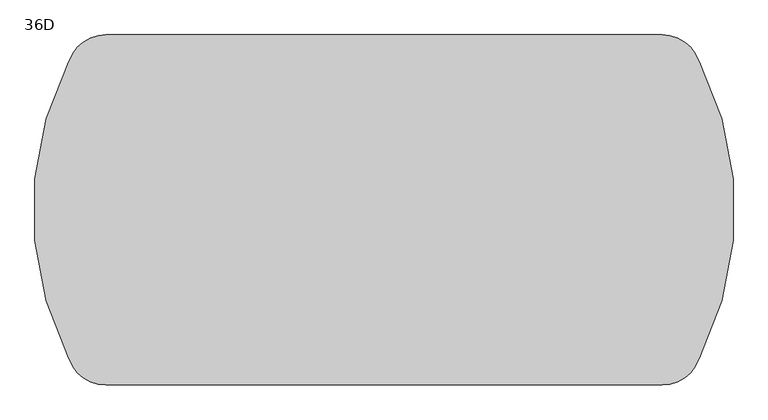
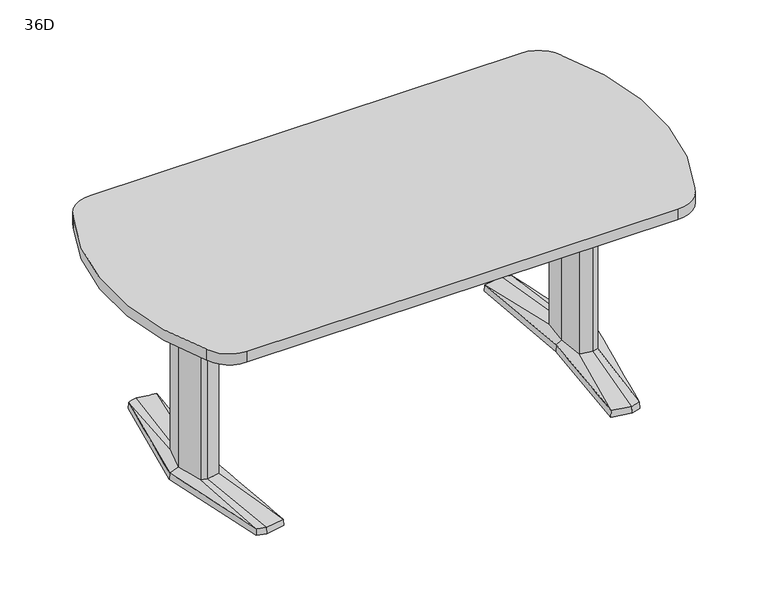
"""IFC4 building model written with IfcOpenShell, lengths in millimetres: furniture geometry, Coalesse_AM_Table_Conference_ETable2_SoftRadiused_72in_AluminiumBase : 36D."""

from ifc_helpers import new_model, si_unit, point, frame, frame_2d, origin, place, context, project, spatial, polyline, circle_curve, trimmed, segment, composite_curve, outline, extrude, source, transform, mapped, element, save
from ifc_brep_helpers import plane_surface, spline_surface, advanced_brep


def furniture_36d_6a36a84a(model_context):
    return source(origin(), model_context, "Body", "SolidModel", [
        advanced_brep(
        [(614.8503471, -379.3768856, 25.4), (644.5756636, -371.5332654, 25.4), (668.2327243, -89.293702, 36.5125), (648.9795254, -94.605478, 36.5125), (606.0521001, -87.0529327, 36.5125), (551.7612538, -368.5071562, 25.4), (597.9364207, 0.0, 36.5125), (579.8389754, 0.3970149, 25.4), (606.0521001, 87.0529327, 36.5125), (551.7615002, 368.5172593, 25.4), (648.9795254, 94.605478, 36.5125), (614.8502233, 379.3769183, 25.4), (668.2327243, 89.293702, 36.5125), (644.7535458, 371.4863276, 25.4), (692.1595251, 0.0, 36.5125), (721.4851663, 0.0003516, 25.4), (578.2468742, 0.3968871, 3.175), (550.06875, 369.8367279, 3.175), (614.9213004, 381.0, 3.175), (646.1093245, 372.7704151, 3.175), (723.10625, 0.0, 3.175), (645.9309817, -372.8174744, 3.175), (614.9213004, -381.0, 3.175), (550.06875, -369.8264415, 3.175), (649.5979264, 107.6121478, 3.175), (594.3065451, 97.8843184, 3.175), (585.1810887, 0.0, 3.175), (594.3065451, -97.8843184, 3.175), (649.5979264, -107.6121478, 3.175), (678.6183473, -99.6056872, 3.175), (705.3083085, 0.0, 3.175), (678.6183473, 99.6056872, 3.175), (613.4286812, 346.9152841, 3.175), (557.7811371, 337.3364985, 3.175), (560.1889918, 324.8641942, 3.175), (612.8600644, 333.9306305, 3.175), (648.6725609, 324.4807859, 3.175), (647.5544526, 337.9105158, 3.175), (613.4286812, -346.9152841, 3.175), (647.5544526, -337.9105158, 3.175), (648.6725609, -324.4807859, 3.175), (612.8600644, -333.9306305, 3.175), (560.1889918, -324.8641942, 3.175), (557.7811371, -337.3364985, 3.175), (649.5979264, 107.6121478, 0.0), (678.6183473, 99.6056872, 0.0), (705.3083085, 0.0, 0.0), (678.6183473, -99.6056872, 0.0), (649.5979264, -107.6121478, 0.0), (594.3065451, -97.8843184, 0.0), (585.1810887, 0.0, 0.0), (594.3065451, 97.8843184, 0.0), (613.4286812, 346.9152841, 0.0), (647.5544526, 337.9105158, 0.0), (648.6725609, 324.4807859, 0.0), (612.8600644, 333.9306305, 0.0), (560.1889918, 324.8641942, 0.0), (557.7811371, 337.3364985, 0.0), (613.4286812, -346.9152841, 0.0), (557.7811371, -337.3364985, 0.0), (560.1889918, -324.8641942, 0.0), (612.8600644, -333.9306305, 0.0), (648.6725609, -324.4807859, 0.0), (647.5544526, -337.9105158, 0.0), (668.2327243, 89.293702, 698.5), (648.9795254, 94.605478, 698.5), (606.0521001, 87.0529327, 698.5), (597.9364207, 0.0, 698.5), (606.0521001, -87.0529327, 698.5), (648.9795254, -94.605478, 698.5), (668.2327243, -89.293702, 698.5), (692.1595251, 0.0, 698.5)],
        [
            (0, 1),
            (1, 2),
            (2, 3),
            (3, 0),
            (3, 4),
            (4, 5),
            (5, 0),
            (4, 6),
            (6, 7),
            (7, 5),
            (6, 8),
            (8, 9),
            (9, 7),
            (8, 10),
            (10, 11),
            (11, 9),
            (10, 12),
            (12, 13),
            (13, 11),
            (12, 14),
            (14, 15),
            (15, 13),
            (1, 15),
            (14, 2),
            (16, 17),
            (17, 18),
            (18, 19),
            (19, 20),
            (20, 21),
            (21, 22),
            (22, 23),
            (23, 16),
            (24, 25),
            (25, 26),
            (26, 27),
            (27, 28),
            (28, 29),
            (29, 30),
            (30, 31),
            (31, 24),
            (32, 33),
            (33, 34),
            (34, 35),
            (35, 36),
            (36, 37),
            (37, 32),
            (38, 39),
            (39, 40),
            (40, 41),
            (41, 42),
            (42, 43),
            (43, 38),
            (16, 7),
            (9, 17),
            (11, 18),
            (13, 19),
            (15, 20),
            (1, 21),
            (0, 22),
            (5, 23),
            (44, 45),
            (45, 46),
            (46, 47),
            (47, 48),
            (48, 49),
            (49, 50),
            (50, 51),
            (51, 44),
            (52, 53),
            (53, 54),
            (54, 55),
            (55, 56),
            (56, 57),
            (57, 52),
            (58, 59),
            (59, 60),
            (60, 61),
            (61, 62),
            (62, 63),
            (63, 58),
            (44, 24),
            (31, 45),
            (30, 46),
            (29, 47),
            (28, 48),
            (27, 49),
            (26, 50),
            (25, 51),
            (52, 32),
            (37, 53),
            (36, 54),
            (35, 55),
            (34, 56),
            (33, 57),
            (58, 38),
            (43, 59),
            (42, 60),
            (41, 61),
            (40, 62),
            (39, 63),
            (64, 65),
            (65, 66),
            (66, 67),
            (67, 68),
            (68, 69),
            (69, 70),
            (70, 71),
            (71, 64),
            (71, 14),
            (12, 64),
            (70, 2),
            (69, 3),
            (68, 4),
            (67, 6),
            (66, 8),
            (65, 10),
        ],
        [
            spline_surface(1, 1, [[(644.5756636, -371.5332654, 25.4), (614.8503471, -379.3768856, 25.4)], [(668.2327243, -89.293702, 36.5125), (648.9795254, -94.605478, 36.5125)]], [2, 2], [2, 2], [0.0, 1.0], [0.0, 1.0]),
            spline_surface(1, 1, [[(614.8503471, -379.3768856, 25.4), (551.7612538, -368.5071562, 25.4)], [(648.9795254, -94.605478, 36.5125), (606.0521001, -87.0529327, 36.5125)]], [2, 2], [2, 2], [0.0, 1.0], [0.0, 1.0]),
            spline_surface(1, 1, [[(551.7612538, -368.5071562, 25.4), (579.8389754, 0.3970149, 25.4)], [(606.0521001, -87.0529327, 36.5125), (597.9364207, 0.0, 36.5125)]], [2, 2], [2, 2], [0.0, 1.0], [0.0, 1.0]),
            spline_surface(1, 1, [[(579.8389754, 0.3970149, 25.4), (551.7615002, 368.5172593, 25.4)], [(597.9364207, 0.0, 36.5125), (606.0521001, 87.0529327, 36.5125)]], [2, 2], [2, 2], [0.0, 1.0], [0.0, 1.0]),
            spline_surface(1, 1, [[(551.7615002, 368.5172593, 25.4), (614.8502233, 379.3769183, 25.4)], [(606.0521001, 87.0529327, 36.5125), (648.9795254, 94.605478, 36.5125)]], [2, 2], [2, 2], [0.0, 1.0], [0.0, 1.0]),
            spline_surface(1, 1, [[(614.8502233, 379.3769183, 25.4), (644.7535458, 371.4863276, 25.4)], [(648.9795254, 94.605478, 36.5125), (668.2327243, 89.293702, 36.5125)]], [2, 2], [2, 2], [0.0, 1.0], [0.0, 1.0]),
            spline_surface(1, 1, [[(644.7535458, 371.4863276, 25.4), (721.4851663, 0.0003516, 25.4)], [(668.2327243, 89.293702, 36.5125), (692.1595251, 0.0, 36.5125)]], [2, 2], [2, 2], [0.0, 1.0], [0.0, 1.0]),
            spline_surface(1, 1, [[(721.4851663, 0.0003516, 25.4), (644.5756636, -371.5332654, 25.4)], [(692.1595251, 0.0, 36.5125), (668.2327243, -89.293702, 36.5125)]], [2, 2], [2, 2], [0.0, 1.0], [0.0, 1.0]),
            plane_surface(frame((615.4216914, 0.0450143, 3.175), z_axis=(0.0, 0.0, -1.0), x_axis=(-0.9669048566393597, -0.2551372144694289, 0.0))),
            plane_surface(frame((564.1578121, 185.1168075, 3.175), z_axis=(-0.9945699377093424, -0.07585840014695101, 0.0712470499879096), x_axis=(-0.07605167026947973, 0.9971038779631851, 0.0))),
            plane_surface(frame((582.4950252, 375.418364, 3.175), z_axis=(-0.1692071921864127, 0.9830019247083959, 0.07124704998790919), x_axis=(0.985506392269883, 0.16963829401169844, 0.0))),
            plane_surface(frame((630.5153124, 376.8852076, 3.175), z_axis=(0.2544888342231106, 0.9644476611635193, 0.07124704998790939), x_axis=(0.9669048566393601, -0.25513721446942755, 0.0))),
            plane_surface(frame((684.6077872, 186.3852076, 3.175), z_axis=(0.9768383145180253, 0.2017690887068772, 0.07124704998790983), x_axis=(0.20228315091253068, -0.9793270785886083, 0.0))),
            plane_surface(frame((684.5186158, -186.4087372, 3.175), z_axis=(0.9767507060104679, -0.20219276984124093, 0.07124704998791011), x_axis=(-0.2027079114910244, -0.9792392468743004, 0.0))),
            plane_surface(frame((630.426141, -376.9087372, 3.175), z_axis=(0.2544888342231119, -0.9644476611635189, 0.0712470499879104), x_axis=(-0.9669048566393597, -0.2551372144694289, 0.0))),
            plane_surface(frame((582.4950252, -375.4132207, 3.175), z_axis=(-0.16935861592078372, -0.982975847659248, 0.07124704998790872), x_axis=(-0.9854802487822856, 0.16979010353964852, 0.0))),
            plane_surface(frame((564.1578121, -184.7147772, 3.175), z_axis=(-0.9945820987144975, 0.07569878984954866, 0.07124704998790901), x_axis=(0.07589165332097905, 0.9971160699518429, 0.0))),
            plane_surface(frame((652.3571479, 106.8509046, 0.0), z_axis=(0.0, 0.0, -1.0000000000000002), x_axis=(-0.9639855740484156, 0.26595453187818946, 0.0))),
            plane_surface(frame((649.5979264, 107.6121478, 3.175), z_axis=(0.26595453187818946, 0.9639855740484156, 0.0), x_axis=(0.0, 0.0, -1.0))),
            plane_surface(frame((678.6183473, 99.6056872, 3.175), z_axis=(0.9659241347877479, 0.2588253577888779, 0.0), x_axis=(0.0, 0.0, -1.0))),
            plane_surface(frame((705.3083085, 0.0, 3.175), z_axis=(0.9659241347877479, -0.2588253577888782, 0.0), x_axis=(0.0, 0.0, -1.0))),
            plane_surface(frame((678.6183473, -99.6056872, 3.175), z_axis=(0.26595453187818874, -0.9639855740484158, 0.0), x_axis=(0.0, 0.0, -1.0))),
            plane_surface(frame((649.5979264, -107.6121478, 3.175), z_axis=(-0.17327617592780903, -0.9848732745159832, 0.0), x_axis=(0.0, 0.0, -1.0))),
            plane_surface(frame((594.3065451, -97.8843184, 3.175), z_axis=(-0.9956824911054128, -0.0928244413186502, 0.0), x_axis=(0.0, 0.0, -1.0))),
            plane_surface(frame((585.1810887, 0.0, 3.175), z_axis=(-0.9956824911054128, 0.09282444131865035, 0.0), x_axis=(0.0, 0.0, -1.0))),
            plane_surface(frame((594.3065451, 97.8843184, 3.175), z_axis=(-0.17327617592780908, 0.984873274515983, 0.0), x_axis=(0.0, 0.0, -1.0))),
            plane_surface(frame((613.4286812, 346.9152841, 3.175), z_axis=(0.25513721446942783, 0.9669048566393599, 0.0), x_axis=(0.0, 0.0, -1.0))),
            plane_surface(frame((647.5544526, 337.9105158, 3.175), z_axis=(0.9965521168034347, 0.0829691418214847, 0.0), x_axis=(0.0, 0.0, -1.0))),
            plane_surface(frame((648.6725609, 324.4807859, 3.175), z_axis=(-0.25513721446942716, -0.9669048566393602, 0.0), x_axis=(0.0, 0.0, -1.0))),
            plane_surface(frame((612.8600644, 333.9306305, 3.175), z_axis=(0.16963829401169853, -0.985506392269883, 0.0), x_axis=(0.0, 0.0, -1.0))),
            plane_surface(frame((560.1889918, 324.8641942, 3.175), z_axis=(-0.9818699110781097, -0.18955600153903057, 0.0), x_axis=(0.0, 0.0, -1.0))),
            plane_surface(frame((557.7811371, 337.3364985, 3.175), z_axis=(-0.16963829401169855, 0.9855063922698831, 0.0), x_axis=(0.0, 0.0, -1.0))),
            plane_surface(frame((613.4286812, -346.9152841, 3.175), z_axis=(-0.1696382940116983, -0.9855063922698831, 0.0), x_axis=(0.0, 0.0, -1.0))),
            plane_surface(frame((557.7811371, -337.3364985, 3.175), z_axis=(-0.9818699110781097, 0.18955600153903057, 0.0), x_axis=(0.0, 0.0, -1.0))),
            plane_surface(frame((560.1889918, -324.8641942, 3.175), z_axis=(0.16963829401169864, 0.985506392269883, 0.0), x_axis=(0.0, 0.0, -1.0))),
            plane_surface(frame((612.8600644, -333.9306305, 3.175), z_axis=(-0.2551372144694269, 0.9669048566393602, 0.0), x_axis=(0.0, 0.0, -1.0))),
            plane_surface(frame((648.6725609, -324.4807859, 3.175), z_axis=(0.9965521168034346, -0.0829691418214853, 0.0), x_axis=(0.0, 0.0, -1.0))),
            plane_surface(frame((647.5544526, -337.9105158, 3.175), z_axis=(0.2551372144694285, -0.9669048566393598, 0.0), x_axis=(0.0, 0.0, -1.0))),
            plane_surface(frame((692.1595251, 0.0, 698.5), z_axis=(0.0, 0.0, 1.0), x_axis=(0.25882535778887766, -0.965924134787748, 0.0))),
            plane_surface(frame((668.2327243, 89.293702, 698.5), z_axis=(0.965924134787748, 0.25882535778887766, 0.0), x_axis=(0.0, 0.0, -1.0))),
            plane_surface(frame((692.1595251, 0.0, 698.5), z_axis=(0.965924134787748, -0.2588253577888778, 0.0), x_axis=(0.0, 0.0, -1.0))),
            plane_surface(frame((668.2327243, -89.293702, 698.5), z_axis=(0.2659545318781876, -0.963985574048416, 0.0), x_axis=(0.0, 0.0, -1.0))),
            plane_surface(frame((648.9795254, -94.605478, 698.5), z_axis=(-0.1732761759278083, -0.9848732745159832, 0.0), x_axis=(0.0, 0.0, -1.0))),
            plane_surface(frame((606.0521001, -87.0529327, 698.5), z_axis=(-0.9956824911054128, -0.0928244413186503, 0.0), x_axis=(0.0, 0.0, -1.0))),
            plane_surface(frame((597.9364207, 0.0, 698.5), z_axis=(-0.9956824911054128, 0.09282444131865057, 0.0), x_axis=(0.0, 0.0, -1.0))),
            plane_surface(frame((606.0521001, 87.0529327, 698.5), z_axis=(-0.17327617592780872, 0.9848732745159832, 0.0), x_axis=(0.0, 0.0, -1.0))),
            plane_surface(frame((648.9795254, 94.605478, 698.5), z_axis=(0.26595453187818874, 0.9639855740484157, 0.0), x_axis=(0.0, 0.0, -1.0))),
        ],
        [
            (0, [[1, 2, 3, 4]]),
            (1, [[5, 6, 7, -4]]),
            (2, [[8, 9, 10, -6]]),
            (3, [[11, 12, 13, -9]]),
            (4, [[14, 15, 16, -12]]),
            (5, [[17, 18, 19, -15]]),
            (6, [[20, 21, 22, -18]]),
            (7, [[23, -21, 24, -2]]),
            (8, [[25, 26, 27, 28, 29, 30, 31, 32], [33, 34, 35, 36, 37, 38, 39, 40], [41, 42, 43, 44, 45, 46], [47, 48, 49, 50, 51, 52]]),
            (9, [[53, -13, 54, -25]]),
            (10, [[-54, -16, 55, -26]]),
            (11, [[-55, -19, 56, -27]]),
            (12, [[-56, -22, 57, -28]]),
            (13, [[-57, -23, 58, -29]]),
            (14, [[-58, -1, 59, -30]]),
            (15, [[-59, -7, 60, -31]]),
            (16, [[-60, -10, -53, -32]]),
            (17, [[61, 62, 63, 64, 65, 66, 67, 68]]),
            (17, [[69, 70, 71, 72, 73, 74]]),
            (17, [[75, 76, 77, 78, 79, 80]]),
            (18, [[81, -40, 82, -61]]),
            (19, [[-82, -39, 83, -62]]),
            (20, [[-83, -38, 84, -63]]),
            (21, [[-84, -37, 85, -64]]),
            (22, [[-85, -36, 86, -65]]),
            (23, [[-86, -35, 87, -66]]),
            (24, [[-87, -34, 88, -67]]),
            (25, [[-88, -33, -81, -68]]),
            (26, [[89, -46, 90, -69]]),
            (27, [[-90, -45, 91, -70]]),
            (28, [[-91, -44, 92, -71]]),
            (29, [[-92, -43, 93, -72]]),
            (30, [[-93, -42, 94, -73]]),
            (31, [[-94, -41, -89, -74]]),
            (32, [[95, -52, 96, -75]]),
            (33, [[-96, -51, 97, -76]]),
            (34, [[-97, -50, 98, -77]]),
            (35, [[-98, -49, 99, -78]]),
            (36, [[-99, -48, 100, -79]]),
            (37, [[-100, -47, -95, -80]]),
            (38, [[101, 102, 103, 104, 105, 106, 107, 108]]),
            (39, [[109, -20, 110, -108]]),
            (40, [[111, -24, -109, -107]]),
            (41, [[112, -3, -111, -106]]),
            (42, [[113, -5, -112, -105]]),
            (43, [[114, -8, -113, -104]]),
            (44, [[115, -11, -114, -103]]),
            (45, [[116, -14, -115, -102]]),
            (46, [[-110, -17, -116, -101]]),
        ],
    ),
        advanced_brep(
        [(-614.8503471, -379.3768856, 25.4), (-648.9795254, -94.605478, 36.5125), (-668.2327243, -89.293702, 36.5125), (-644.5756636, -371.5332654, 25.4), (-551.7612538, -368.5071562, 25.4), (-606.0521001, -87.0529327, 36.5125), (-579.8389754, 0.3970149, 25.4), (-597.9364207, 0.0, 36.5125), (-551.7615002, 368.5172593, 25.4), (-606.0521001, 87.0529327, 36.5125), (-614.8502233, 379.3769183, 25.4), (-648.9795254, 94.605478, 36.5125), (-644.7535458, 371.4863276, 25.4), (-668.2327243, 89.293702, 36.5125), (-721.4851663, 0.0003516, 25.4), (-692.1595251, 0.0, 36.5125), (-578.2468742, 0.3968871, 3.175), (-550.06875, -369.8264415, 3.175), (-614.9213004, -381.0, 3.175), (-645.9309817, -372.8174744, 3.175), (-723.10625, 0.0, 3.175), (-646.1093245, 372.7704151, 3.175), (-614.9213004, 381.0, 3.175), (-550.06875, 369.8367279, 3.175), (-649.5979264, 107.6121478, 3.175), (-678.6183473, 99.6056872, 3.175), (-705.3083085, 0.0, 3.175), (-678.6183473, -99.6056872, 3.175), (-649.5979264, -107.6121478, 3.175), (-594.3065451, -97.8843184, 3.175), (-585.1810887, 0.0, 3.175), (-594.3065451, 97.8843184, 3.175), (-613.4286812, 346.9152841, 3.175), (-647.5544526, 337.9105158, 3.175), (-648.6725609, 324.4807859, 3.175), (-612.8600644, 333.9306305, 3.175), (-560.1889918, 324.8641942, 3.175), (-557.7811371, 337.3364985, 3.175), (-613.4286812, -346.9152841, 3.175), (-557.7811371, -337.3364985, 3.175), (-560.1889918, -324.8641942, 3.175), (-612.8600644, -333.9306305, 3.175), (-648.6725609, -324.4807859, 3.175), (-647.5544526, -337.9105158, 3.175), (-649.5979264, 107.6121478, 0.0), (-594.3065451, 97.8843184, 0.0), (-585.1810887, 0.0, 0.0), (-594.3065451, -97.8843184, 0.0), (-649.5979264, -107.6121478, 0.0), (-678.6183473, -99.6056872, 0.0), (-705.3083085, 0.0, 0.0), (-678.6183473, 99.6056872, 0.0), (-613.4286812, 346.9152841, 0.0), (-557.7811371, 337.3364985, 0.0), (-560.1889918, 324.8641942, 0.0), (-612.8600644, 333.9306305, 0.0), (-648.6725609, 324.4807859, 0.0), (-647.5544526, 337.9105158, 0.0), (-613.4286812, -346.9152841, 0.0), (-647.5544526, -337.9105158, 0.0), (-648.6725609, -324.4807859, 0.0), (-612.8600644, -333.9306305, 0.0), (-560.1889918, -324.8641942, 0.0), (-557.7811371, -337.3364985, 0.0), (-668.2327243, 89.293702, 698.5), (-692.1595251, 0.0, 698.5), (-668.2327243, -89.293702, 698.5), (-648.9795254, -94.605478, 698.5), (-606.0521001, -87.0529327, 698.5), (-597.9364207, 0.0, 698.5), (-606.0521001, 87.0529327, 698.5), (-648.9795254, 94.605478, 698.5)],
        [
            (0, 1),
            (1, 2),
            (2, 3),
            (3, 0),
            (0, 4),
            (4, 5),
            (5, 1),
            (4, 6),
            (6, 7),
            (7, 5),
            (6, 8),
            (8, 9),
            (9, 7),
            (8, 10),
            (10, 11),
            (11, 9),
            (10, 12),
            (12, 13),
            (13, 11),
            (12, 14),
            (14, 15),
            (15, 13),
            (2, 15),
            (14, 3),
            (16, 17),
            (17, 18),
            (18, 19),
            (19, 20),
            (20, 21),
            (21, 22),
            (22, 23),
            (23, 16),
            (24, 25),
            (25, 26),
            (26, 27),
            (27, 28),
            (28, 29),
            (29, 30),
            (30, 31),
            (31, 24),
            (32, 33),
            (33, 34),
            (34, 35),
            (35, 36),
            (36, 37),
            (37, 32),
            (38, 39),
            (39, 40),
            (40, 41),
            (41, 42),
            (42, 43),
            (43, 38),
            (23, 8),
            (6, 16),
            (22, 10),
            (21, 12),
            (20, 14),
            (19, 3),
            (18, 0),
            (17, 4),
            (44, 45),
            (45, 46),
            (46, 47),
            (47, 48),
            (48, 49),
            (49, 50),
            (50, 51),
            (51, 44),
            (52, 53),
            (53, 54),
            (54, 55),
            (55, 56),
            (56, 57),
            (57, 52),
            (58, 59),
            (59, 60),
            (60, 61),
            (61, 62),
            (62, 63),
            (63, 58),
            (51, 25),
            (24, 44),
            (50, 26),
            (49, 27),
            (48, 28),
            (47, 29),
            (46, 30),
            (45, 31),
            (57, 33),
            (32, 52),
            (56, 34),
            (55, 35),
            (54, 36),
            (53, 37),
            (63, 39),
            (38, 58),
            (62, 40),
            (61, 41),
            (60, 42),
            (59, 43),
            (64, 65),
            (65, 66),
            (66, 67),
            (67, 68),
            (68, 69),
            (69, 70),
            (70, 71),
            (71, 64),
            (64, 13),
            (15, 65),
            (2, 66),
            (1, 67),
            (5, 68),
            (7, 69),
            (9, 70),
            (11, 71),
        ],
        [
            spline_surface(1, 1, [[(-644.5756636, -371.5332654, 25.4), (-668.2327243, -89.293702, 36.5125)], [(-614.8503471, -379.3768856, 25.4), (-648.9795254, -94.605478, 36.5125)]], [2, 2], [2, 2], [0.0, 1.0], [0.0, 1.0]),
            spline_surface(1, 1, [[(-614.8503471, -379.3768856, 25.4), (-648.9795254, -94.605478, 36.5125)], [(-551.7612538, -368.5071562, 25.4), (-606.0521001, -87.0529327, 36.5125)]], [2, 2], [2, 2], [0.0, 1.0], [0.0, 1.0]),
            spline_surface(1, 1, [[(-551.7612538, -368.5071562, 25.4), (-606.0521001, -87.0529327, 36.5125)], [(-579.8389754, 0.3970149, 25.4), (-597.9364207, 0.0, 36.5125)]], [2, 2], [2, 2], [0.0, 1.0], [0.0, 1.0]),
            spline_surface(1, 1, [[(-579.8389754, 0.3970149, 25.4), (-597.9364207, 0.0, 36.5125)], [(-551.7615002, 368.5172593, 25.4), (-606.0521001, 87.0529327, 36.5125)]], [2, 2], [2, 2], [0.0, 1.0], [0.0, 1.0]),
            spline_surface(1, 1, [[(-551.7615002, 368.5172593, 25.4), (-606.0521001, 87.0529327, 36.5125)], [(-614.8502233, 379.3769183, 25.4), (-648.9795254, 94.605478, 36.5125)]], [2, 2], [2, 2], [0.0, 1.0], [0.0, 1.0]),
            spline_surface(1, 1, [[(-614.8502233, 379.3769183, 25.4), (-648.9795254, 94.605478, 36.5125)], [(-644.7535458, 371.4863276, 25.4), (-668.2327243, 89.293702, 36.5125)]], [2, 2], [2, 2], [0.0, 1.0], [0.0, 1.0]),
            spline_surface(1, 1, [[(-644.7535458, 371.4863276, 25.4), (-668.2327243, 89.293702, 36.5125)], [(-721.4851663, 0.0003516, 25.4), (-692.1595251, 0.0, 36.5125)]], [2, 2], [2, 2], [0.0, 1.0], [0.0, 1.0]),
            spline_surface(1, 1, [[(-721.4851663, 0.0003516, 25.4), (-692.1595251, 0.0, 36.5125)], [(-644.5756636, -371.5332654, 25.4), (-668.2327243, -89.293702, 36.5125)]], [2, 2], [2, 2], [0.0, 1.0], [0.0, 1.0]),
            plane_surface(frame((-615.4216914, 0.0450143, 3.175), z_axis=(0.0, 0.0, -1.0), x_axis=(0.9669048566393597, -0.2551372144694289, 0.0))),
            plane_surface(frame((-564.1578121, 185.1168075, 3.175), z_axis=(0.9945699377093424, -0.07585840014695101, 0.0712470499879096), x_axis=(0.07605167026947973, 0.9971038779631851, 0.0))),
            plane_surface(frame((-582.4950252, 375.418364, 3.175), z_axis=(0.1692071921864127, 0.9830019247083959, 0.07124704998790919), x_axis=(-0.985506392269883, 0.16963829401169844, 0.0))),
            plane_surface(frame((-630.5153124, 376.8852076, 3.175), z_axis=(-0.2544888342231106, 0.9644476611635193, 0.07124704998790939), x_axis=(-0.9669048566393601, -0.25513721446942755, 0.0))),
            plane_surface(frame((-684.6077872, 186.3852076, 3.175), z_axis=(-0.9768383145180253, 0.2017690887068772, 0.07124704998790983), x_axis=(-0.20228315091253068, -0.9793270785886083, 0.0))),
            plane_surface(frame((-684.5186158, -186.4087372, 3.175), z_axis=(-0.9767507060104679, -0.20219276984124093, 0.07124704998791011), x_axis=(0.2027079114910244, -0.9792392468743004, 0.0))),
            plane_surface(frame((-630.426141, -376.9087372, 3.175), z_axis=(-0.2544888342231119, -0.9644476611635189, 0.0712470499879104), x_axis=(0.9669048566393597, -0.2551372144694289, 0.0))),
            plane_surface(frame((-582.4950252, -375.4132207, 3.175), z_axis=(0.16935861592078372, -0.982975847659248, 0.07124704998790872), x_axis=(0.9854802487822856, 0.16979010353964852, 0.0))),
            plane_surface(frame((-564.1578121, -184.7147772, 3.175), z_axis=(0.9945820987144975, 0.07569878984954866, 0.07124704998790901), x_axis=(-0.07589165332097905, 0.9971160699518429, 0.0))),
            plane_surface(frame((-652.3571479, 106.8509046, 0.0), z_axis=(0.0, 0.0, -1.0000000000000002), x_axis=(0.9639855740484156, 0.26595453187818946, 0.0))),
            plane_surface(frame((-649.5979264, 107.6121478, 3.175), z_axis=(-0.26595453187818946, 0.9639855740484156, 0.0), x_axis=(0.0, 0.0, -1.0))),
            plane_surface(frame((-678.6183473, 99.6056872, 3.175), z_axis=(-0.9659241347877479, 0.2588253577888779, 0.0), x_axis=(0.0, 0.0, -1.0))),
            plane_surface(frame((-705.3083085, 0.0, 3.175), z_axis=(-0.9659241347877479, -0.2588253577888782, 0.0), x_axis=(0.0, 0.0, -1.0))),
            plane_surface(frame((-678.6183473, -99.6056872, 3.175), z_axis=(-0.26595453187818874, -0.9639855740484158, 0.0), x_axis=(0.0, 0.0, -1.0))),
            plane_surface(frame((-649.5979264, -107.6121478, 3.175), z_axis=(0.17327617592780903, -0.9848732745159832, 0.0), x_axis=(0.0, 0.0, -1.0))),
            plane_surface(frame((-594.3065451, -97.8843184, 3.175), z_axis=(0.9956824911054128, -0.0928244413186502, 0.0), x_axis=(0.0, 0.0, -1.0))),
            plane_surface(frame((-585.1810887, 0.0, 3.175), z_axis=(0.9956824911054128, 0.09282444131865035, 0.0), x_axis=(0.0, 0.0, -1.0))),
            plane_surface(frame((-594.3065451, 97.8843184, 3.175), z_axis=(0.17327617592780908, 0.984873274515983, 0.0), x_axis=(0.0, 0.0, -1.0))),
            plane_surface(frame((-613.4286812, 346.9152841, 3.175), z_axis=(-0.25513721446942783, 0.9669048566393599, 0.0), x_axis=(0.0, 0.0, -1.0))),
            plane_surface(frame((-647.5544526, 337.9105158, 3.175), z_axis=(-0.9965521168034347, 0.0829691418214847, 0.0), x_axis=(0.0, 0.0, -1.0))),
            plane_surface(frame((-648.6725609, 324.4807859, 3.175), z_axis=(0.25513721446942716, -0.9669048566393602, 0.0), x_axis=(0.0, 0.0, -1.0))),
            plane_surface(frame((-612.8600644, 333.9306305, 3.175), z_axis=(-0.16963829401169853, -0.985506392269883, 0.0), x_axis=(0.0, 0.0, -1.0))),
            plane_surface(frame((-560.1889918, 324.8641942, 3.175), z_axis=(0.9818699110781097, -0.18955600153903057, 0.0), x_axis=(0.0, 0.0, -1.0))),
            plane_surface(frame((-557.7811371, 337.3364985, 3.175), z_axis=(0.16963829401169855, 0.9855063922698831, 0.0), x_axis=(0.0, 0.0, -1.0))),
            plane_surface(frame((-613.4286812, -346.9152841, 3.175), z_axis=(0.1696382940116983, -0.9855063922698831, 0.0), x_axis=(0.0, 0.0, -1.0))),
            plane_surface(frame((-557.7811371, -337.3364985, 3.175), z_axis=(0.9818699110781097, 0.18955600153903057, 0.0), x_axis=(0.0, 0.0, -1.0))),
            plane_surface(frame((-560.1889918, -324.8641942, 3.175), z_axis=(-0.16963829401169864, 0.985506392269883, 0.0), x_axis=(0.0, 0.0, -1.0))),
            plane_surface(frame((-612.8600644, -333.9306305, 3.175), z_axis=(0.2551372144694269, 0.9669048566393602, 0.0), x_axis=(0.0, 0.0, -1.0))),
            plane_surface(frame((-648.6725609, -324.4807859, 3.175), z_axis=(-0.9965521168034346, -0.0829691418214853, 0.0), x_axis=(0.0, 0.0, -1.0))),
            plane_surface(frame((-647.5544526, -337.9105158, 3.175), z_axis=(-0.2551372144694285, -0.9669048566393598, 0.0), x_axis=(0.0, 0.0, -1.0))),
            plane_surface(frame((-692.1595251, 0.0, 698.5), z_axis=(0.0, 0.0, 1.0), x_axis=(-0.25882535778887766, -0.965924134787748, 0.0))),
            plane_surface(frame((-668.2327243, 89.293702, 698.5), z_axis=(-0.965924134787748, 0.25882535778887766, 0.0), x_axis=(0.0, 0.0, -1.0))),
            plane_surface(frame((-692.1595251, 0.0, 698.5), z_axis=(-0.965924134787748, -0.2588253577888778, 0.0), x_axis=(0.0, 0.0, -1.0))),
            plane_surface(frame((-668.2327243, -89.293702, 698.5), z_axis=(-0.2659545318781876, -0.963985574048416, 0.0), x_axis=(0.0, 0.0, -1.0))),
            plane_surface(frame((-648.9795254, -94.605478, 698.5), z_axis=(0.1732761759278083, -0.9848732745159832, 0.0), x_axis=(0.0, 0.0, -1.0))),
            plane_surface(frame((-606.0521001, -87.0529327, 698.5), z_axis=(0.9956824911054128, -0.0928244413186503, 0.0), x_axis=(0.0, 0.0, -1.0))),
            plane_surface(frame((-597.9364207, 0.0, 698.5), z_axis=(0.9956824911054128, 0.09282444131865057, 0.0), x_axis=(0.0, 0.0, -1.0))),
            plane_surface(frame((-606.0521001, 87.0529327, 698.5), z_axis=(0.17327617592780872, 0.9848732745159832, 0.0), x_axis=(0.0, 0.0, -1.0))),
            plane_surface(frame((-648.9795254, 94.605478, 698.5), z_axis=(-0.26595453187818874, 0.9639855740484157, 0.0), x_axis=(0.0, 0.0, -1.0))),
        ],
        [
            (0, [[1, 2, 3, 4]]),
            (1, [[-1, 5, 6, 7]]),
            (2, [[-6, 8, 9, 10]]),
            (3, [[-9, 11, 12, 13]]),
            (4, [[-12, 14, 15, 16]]),
            (5, [[-15, 17, 18, 19]]),
            (6, [[-18, 20, 21, 22]]),
            (7, [[-3, 23, -21, 24]]),
            (8, [[25, 26, 27, 28, 29, 30, 31, 32], [33, 34, 35, 36, 37, 38, 39, 40], [41, 42, 43, 44, 45, 46], [47, 48, 49, 50, 51, 52]]),
            (9, [[-32, 53, -11, 54]]),
            (10, [[-31, 55, -14, -53]]),
            (11, [[-30, 56, -17, -55]]),
            (12, [[-29, 57, -20, -56]]),
            (13, [[-28, 58, -24, -57]]),
            (14, [[-27, 59, -4, -58]]),
            (15, [[-26, 60, -5, -59]]),
            (16, [[-25, -54, -8, -60]]),
            (17, [[61, 62, 63, 64, 65, 66, 67, 68]]),
            (17, [[69, 70, 71, 72, 73, 74]]),
            (17, [[75, 76, 77, 78, 79, 80]]),
            (18, [[-68, 81, -33, 82]]),
            (19, [[-67, 83, -34, -81]]),
            (20, [[-66, 84, -35, -83]]),
            (21, [[-65, 85, -36, -84]]),
            (22, [[-64, 86, -37, -85]]),
            (23, [[-63, 87, -38, -86]]),
            (24, [[-62, 88, -39, -87]]),
            (25, [[-61, -82, -40, -88]]),
            (26, [[-74, 89, -41, 90]]),
            (27, [[-73, 91, -42, -89]]),
            (28, [[-72, 92, -43, -91]]),
            (29, [[-71, 93, -44, -92]]),
            (30, [[-70, 94, -45, -93]]),
            (31, [[-69, -90, -46, -94]]),
            (32, [[-80, 95, -47, 96]]),
            (33, [[-79, 97, -48, -95]]),
            (34, [[-78, 98, -49, -97]]),
            (35, [[-77, 99, -50, -98]]),
            (36, [[-76, 100, -51, -99]]),
            (37, [[-75, -96, -52, -100]]),
            (38, [[101, 102, 103, 104, 105, 106, 107, 108]]),
            (39, [[-101, 109, -22, 110]]),
            (40, [[-102, -110, -23, 111]]),
            (41, [[-103, -111, -2, 112]]),
            (42, [[-104, -112, -7, 113]]),
            (43, [[-105, -113, -10, 114]]),
            (44, [[-106, -114, -13, 115]]),
            (45, [[-107, -115, -16, 116]]),
            (46, [[-108, -116, -19, -109]]),
        ],
    ),
        extrude(outline(polyline([(96.8375, 698.5), (103.1875, 698.5), (103.1875, 476.25), (-103.1875, 476.25), (-103.1875, 698.5), (-96.8375, 698.5), (-96.8375, 482.6), (96.8375, 482.6), (96.8375, 698.5)])), frame((-597.9364207, 0.0, 0.0), z_axis=(1.0, 0.0, 0.0), x_axis=(0.0, 1.0, 0.0)), (0.0, 0.0, 1.0), 1195.8728415),
        extrude(outline(composite_curve([segment(polyline([(-821.0457112, -389.4652296), (-821.8015465, -387.3273037)]), True, "CONTINUOUS"), segment(trimmed(circle_curve(frame_2d((-58.020048, 0.0025878)), 856.379952), [point((-821.8015465, -387.3273037))], [point((-821.7956256, 387.3441544))], False, "CARTESIAN"), True, "CONTINUOUS"), segment(polyline([(-821.7956256, 387.3441544), (-821.0453442, 389.4662966)]), True, "CONTINUOUS"), segment(trimmed(circle_curve(frame_2d((-725.2558148, 355.6)), 101.6), [point((-821.0453442, 389.4662966))], [point((-725.2558148, 457.2))], False, "CARTESIAN"), True, "CONTINUOUS"), segment(polyline([(-725.2558148, 457.2), (725.2557872, 457.2)]), True, "CONTINUOUS"), segment(trimmed(circle_curve(frame_2d((725.2557872, 355.5999756)), 101.6000244), [point((725.2557872, 457.2))], [point((821.0457112, 389.4652296))], False, "CARTESIAN"), True, "CONTINUOUS"), segment(polyline([(821.0457112, 389.4652296), (821.8015465, 387.3323756)]), True, "CONTINUOUS"), segment(trimmed(circle_curve(frame_2d((58.0094405, -5.18e-05)), 856.3905595), [point((821.8015465, 387.3323756))], [point((821.7956256, -387.3441544))], False, "CARTESIAN"), True, "CONTINUOUS"), segment(polyline([(821.7956256, -387.3441544), (821.0453442, -389.4662966)]), True, "CONTINUOUS"), segment(trimmed(circle_curve(frame_2d((725.2558148, -355.6)), 101.6), [point((821.0453442, -389.4662966))], [point((725.2558148, -457.2))], False, "CARTESIAN"), True, "CONTINUOUS"), segment(polyline([(725.2558148, -457.2), (-725.2557872, -457.2)]), True, "CONTINUOUS"), segment(trimmed(circle_curve(frame_2d((-725.2557872, -355.5999756)), 101.6000244), [point((-725.2557872, -457.2))], [point((-821.0457112, -389.4652296))], False, "CARTESIAN"), True, "CONTINUOUS")], self_intersect=False)), frame((0.0, 0.0, 698.5), z_axis=(0.0, 0.0, 1.0), x_axis=(1.0, 0.0, 0.0)), (0.0, 0.0, 1.0), 38.1),
    ])


if __name__ == "__main__":
    model = new_model("IFC4")
    model_context = context("Model", 3, world=origin())
    ifc_project = project(units=[si_unit("LENGTHUNIT", "METRE", prefix="MILLI")], contexts=[model_context])
    site = spatial("IfcSite", under=ifc_project)
    building = spatial("IfcBuilding", under=site)
    placement = place(None, origin())
    furniture_36d_shape = furniture_36d_6a36a84a(model_context)
    element("IfcFurniture", 1, ObjectType="Coalesse_AM_Table_Conference_ETable2_SoftRadiused_72in_AluminiumBase : 36D", at=placement, inside=building, context=model_context, shape_type="MappedRepresentation", body=[
        mapped(furniture_36d_shape, transform((0.0, 0.0, 0.0), x_axis=(1.0, 0.0, 0.0), y_axis=(0.0, 1.0, 0.0), z_axis=(0.0, 0.0, 1.0))),
    ])
    save(model, "model.ifc")
